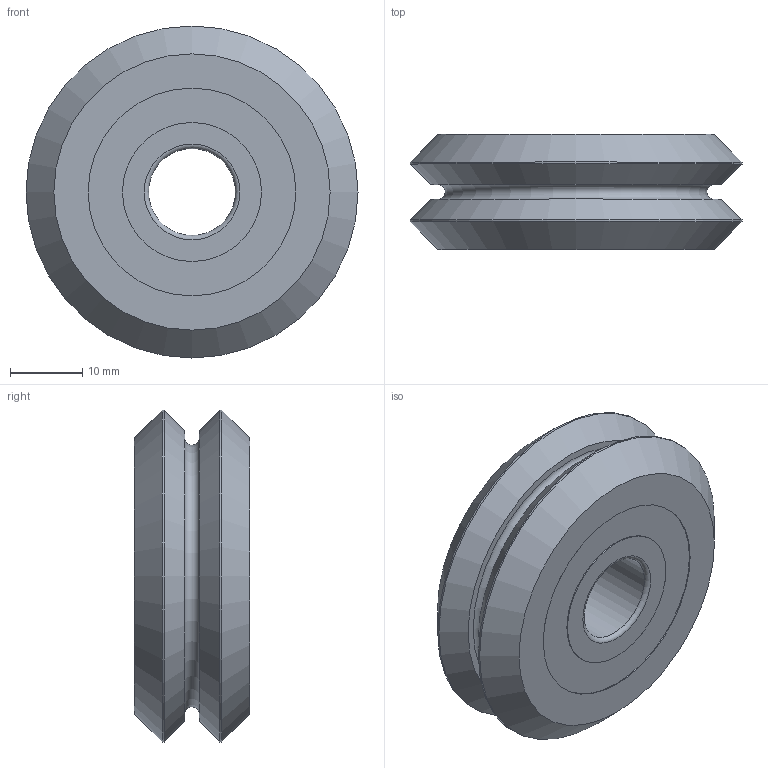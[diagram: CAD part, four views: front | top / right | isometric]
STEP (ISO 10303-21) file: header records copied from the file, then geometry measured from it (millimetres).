
FILE_DESCRIPTION(('STEP AP203'),'1');
FILE_NAME('W3SSX227.stp','2020-09-30T01:57:16',(' '),(' '),'Spatial InterOp 3D',' ',' ');
FILE_SCHEMA(('CONFIG_CONTROL_DESIGN'));
Length unit declared in the file: millimetre
Products named in the file (1): W3SSX227
Bounding box: 45.8 x 15.88 x 45.8 mm (x, y, z)
Volume: 19947.9 mm3; surface area: 5874.6 mm2
Topology: 1 solids, 1 shells, 22 faces, 36 edges, 22 vertices
Faces by surface type: plane 8, cylinder 7, cone 4, torus 3
Full cylindrical faces by diameter (mm): 12 x1, 19.177 x2, 28.639 x2, 45.8 x2
Entity records: 510 total; most frequent: DIRECTION 90, CARTESIAN_POINT 67, AXIS2_PLACEMENT_3D 45, EDGE_LOOP 44, ORIENTED_EDGE 44, FACE_OUTER_BOUND 32, ADVANCED_FACE 22, EDGE_CURVE 22
